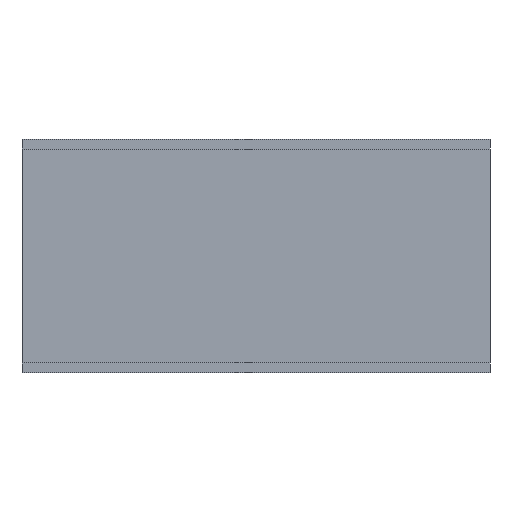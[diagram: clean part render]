
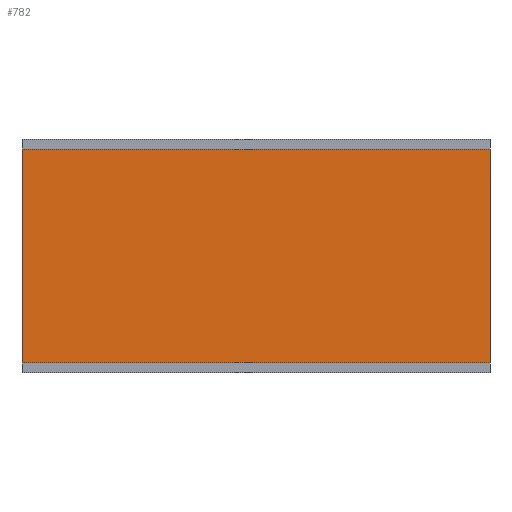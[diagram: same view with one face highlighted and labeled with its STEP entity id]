
A CAD part, front view. The second image highlights one B-rep face of the part: STEP entity #782.
In plain terms, the highlighted planar face has unit normal (0, -1, 0).
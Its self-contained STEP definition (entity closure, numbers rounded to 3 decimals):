
#172 = LINE ( 'NONE', #1536, #514 ) ;
#176 = ORIENTED_EDGE ( 'NONE', *, *, #1632, .F. ) ;
#184 = ORIENTED_EDGE ( 'NONE', *, *, #629, .F. ) ;
#251 = FACE_OUTER_BOUND ( 'NONE', #778, .T. ) ;
#253 = VERTEX_POINT ( 'NONE', #1433 ) ;
#322 = AXIS2_PLACEMENT_3D ( 'NONE', #1529, #1399, #618 ) ;
#327 = VECTOR ( 'NONE', #1585, 1000. ) ;
#411 = EDGE_CURVE ( 'NONE', #1163, #497, #1508, .T. ) ;
#433 = DIRECTION ( 'NONE',  ( 0., 0., -1. ) ) ;
#440 = CARTESIAN_POINT ( 'NONE',  ( 1000., -68., 228.6 ) ) ;
#445 = LINE ( 'NONE', #692, #1134 ) ;
#497 = VERTEX_POINT ( 'NONE', #957 ) ;
#503 = ORIENTED_EDGE ( 'NONE', *, *, #766, .T. ) ;
#514 = VECTOR ( 'NONE', #1000, 1000. ) ;
#618 = DIRECTION ( 'NONE',  ( 0., 0., 1. ) ) ;
#629 = EDGE_CURVE ( 'NONE', #253, #793, #676, .T. ) ;
#676 = LINE ( 'NONE', #1238, #1323 ) ;
#692 = CARTESIAN_POINT ( 'NONE',  ( 1000., -68., -228.6 ) ) ;
#766 = EDGE_CURVE ( 'NONE', #497, #793, #172, .T. ) ;
#778 = EDGE_LOOP ( 'NONE', ( #503, #184, #176, #1514 ) ) ;
#782 = ADVANCED_FACE ( 'NONE', ( #251 ), #1646, .F. ) ;
#793 = VERTEX_POINT ( 'NONE', #880 ) ;
#880 = CARTESIAN_POINT ( 'NONE',  ( 0., -68., -228.6 ) ) ;
#957 = CARTESIAN_POINT ( 'NONE',  ( 0., -68., 228.6 ) ) ;
#1000 = DIRECTION ( 'NONE',  ( 0., 0., -1. ) ) ;
#1134 = VECTOR ( 'NONE', #433, 1000. ) ;
#1163 = VERTEX_POINT ( 'NONE', #440 ) ;
#1191 = CARTESIAN_POINT ( 'NONE',  ( 1000., -68., 228.6 ) ) ;
#1238 = CARTESIAN_POINT ( 'NONE',  ( 1000., -68., -228.6 ) ) ;
#1323 = VECTOR ( 'NONE', #1614, 1000. ) ;
#1399 = DIRECTION ( 'NONE',  ( 0., 1., 0. ) ) ;
#1433 = CARTESIAN_POINT ( 'NONE',  ( 1000., -68., -228.6 ) ) ;
#1508 = LINE ( 'NONE', #1191, #327 ) ;
#1514 = ORIENTED_EDGE ( 'NONE', *, *, #411, .T. ) ;
#1529 = CARTESIAN_POINT ( 'NONE',  ( 1000., -68., -228.6 ) ) ;
#1536 = CARTESIAN_POINT ( 'NONE',  ( 0., -68., -228.6 ) ) ;
#1585 = DIRECTION ( 'NONE',  ( -1., 0., 0. ) ) ;
#1614 = DIRECTION ( 'NONE',  ( -1., 0., 0. ) ) ;
#1632 = EDGE_CURVE ( 'NONE', #1163, #253, #445, .T. ) ;
#1646 = PLANE ( 'NONE',  #322 ) ;
